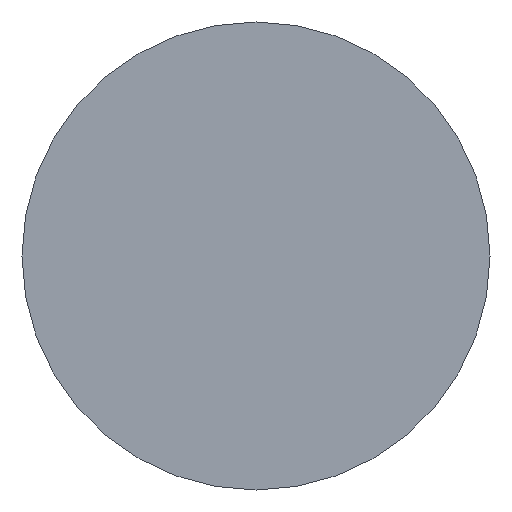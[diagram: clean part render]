
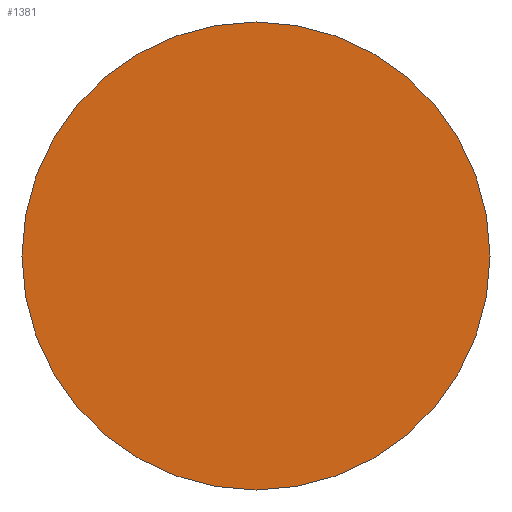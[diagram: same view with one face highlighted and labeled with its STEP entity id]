
A CAD part, left-side view. The second image highlights one B-rep face of the part: STEP entity #1381.
In plain terms, the highlighted planar face has unit normal (-1, 0, 0).
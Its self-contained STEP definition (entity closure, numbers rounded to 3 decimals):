
#16=PLANE('',#1635);
#154=FACE_OUTER_BOUND('',#214,.T.);
#214=EDGE_LOOP('',(#1229,#1230));
#398=CIRCLE('',#1636,4.02);
#399=CIRCLE('',#1637,4.02);
#577=VERTEX_POINT('',#2633);
#578=VERTEX_POINT('',#2634);
#801=EDGE_CURVE('',#577,#578,#398,.T.);
#802=EDGE_CURVE('',#578,#577,#399,.T.);
#1229=ORIENTED_EDGE('',*,*,#801,.F.);
#1230=ORIENTED_EDGE('',*,*,#802,.F.);
#1381=ADVANCED_FACE('',(#154),#16,.T.);
#1635=AXIS2_PLACEMENT_3D('',#2632,#2149,#2150);
#1636=AXIS2_PLACEMENT_3D('',#2635,#2151,#2152);
#1637=AXIS2_PLACEMENT_3D('',#2636,#2153,#2154);
#2149=DIRECTION('center_axis',(-1.,0.,0.));
#2150=DIRECTION('ref_axis',(0.,0.,1.));
#2151=DIRECTION('center_axis',(1.,0.,0.));
#2152=DIRECTION('ref_axis',(0.,1.,0.));
#2153=DIRECTION('center_axis',(1.,0.,0.));
#2154=DIRECTION('ref_axis',(0.,1.,0.));
#2632=CARTESIAN_POINT('Origin',(0.,2.01,0.));
#2633=CARTESIAN_POINT('',(0.,4.02,0.));
#2634=CARTESIAN_POINT('',(0.,-4.02,0.));
#2635=CARTESIAN_POINT('Origin',(0.,0.,0.));
#2636=CARTESIAN_POINT('Origin',(0.,0.,0.));
